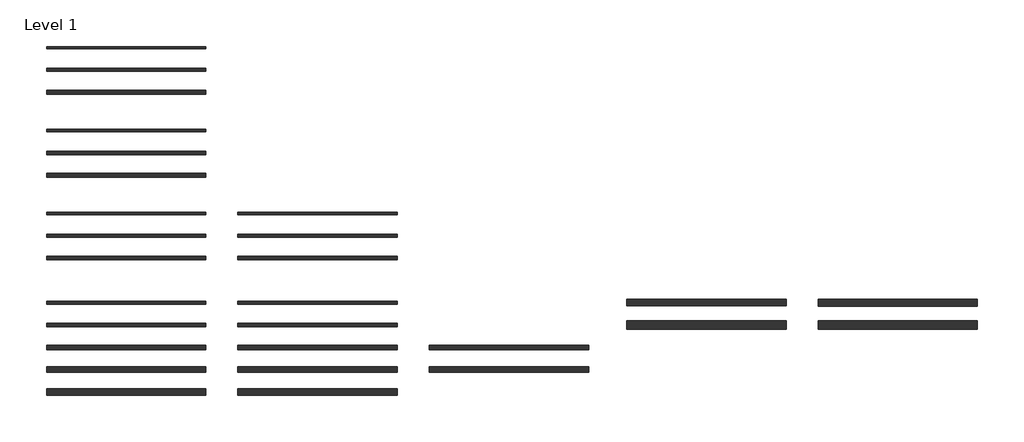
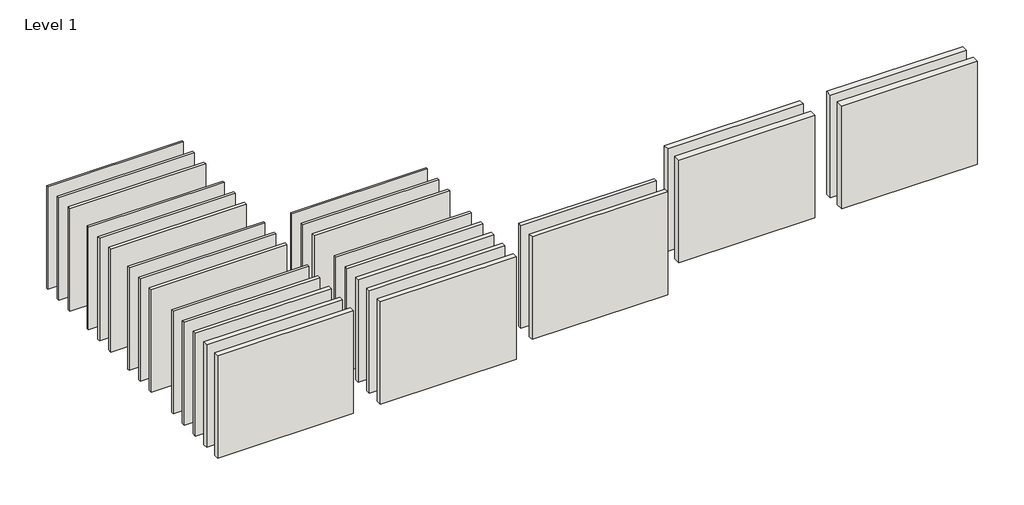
# One storey: 28 walls.
"""IFC4 building model written with IfcOpenShell, lengths in millimetres."""

from ifc_helpers import new_model, si_unit, origin, origin_with_axes, place, context, project, spatial, polyline, outline, extrude, element, save

model = new_model("IFC4")

# Units and contexts
model_context = context("Model", 3, world=origin())
ifc_project = project(units=[si_unit("LENGTHUNIT", "METRE", prefix="MILLI")], contexts=[model_context])

# Site, building, storey
site = spatial("IfcSite", under=ifc_project)
building = spatial("IfcBuilding", under=site)
storey = spatial("IfcBuildingStorey", under=building, Name="Level 1", Elevation=0.0)

# Walls
placement = place(None, origin())
element("IfcWall", 1, ObjectType="Knauf Danogips E T600 45/45 - /AA M0", at=placement, inside=storey, context=model_context, shape_type="SweptSolid", body=[
    extrude(outline(polyline([(-12781.2795625, 11679.3559755), (-17781.2795625, 11679.3559755), (-17781.2795625, 11749.3559755), (-12781.2795625, 11749.3559755), (-12781.2795625, 11679.3559755)])), origin_with_axes(), (0.0, 0.0, 1.0), 4000.0),
])
element("IfcWall", 2, ObjectType="Knauf Danogips E T600 70/70 - /AA M0", at=placement, inside=storey, context=model_context, shape_type="SweptSolid", body=[
    extrude(outline(polyline([(-12781.2795625, 10966.8559755), (-17781.2795625, 10966.8559755), (-17781.2795625, 11061.8559755), (-12781.2795625, 11061.8559755), (-12781.2795625, 10966.8559755)])), origin_with_axes(), (0.0, 0.0, 1.0), 4000.0),
])
element("IfcWall", 3, ObjectType="Knauf Danogips E T600 95/95 - /AA M0", at=placement, inside=storey, context=model_context, shape_type="SweptSolid", body=[
    extrude(outline(polyline([(-12781.2795625, 10254.3559755), (-17781.2795625, 10254.3559755), (-17781.2795625, 10374.3559755), (-12781.2795625, 10374.3559755), (-12781.2795625, 10254.3559755)])), origin_with_axes(), (0.0, 0.0, 1.0), 4000.0),
])
element("IfcWall", 4, ObjectType="Knauf Danogips E T600 45/45 - /AAA M0", at=placement, inside=storey, context=model_context, shape_type="SweptSolid", body=[
    extrude(outline(polyline([(-12781.2795625, 9073.1059755), (-17781.2795625, 9073.1059755), (-17781.2795625, 9155.6059755), (-12781.2795625, 9155.6059755), (-12781.2795625, 9073.1059755)])), origin_with_axes(), (0.0, 0.0, 1.0), 4000.0),
])
element("IfcWall", 5, ObjectType="Knauf Danogips E T600 70/70 - /AAA M0", at=placement, inside=storey, context=model_context, shape_type="SweptSolid", body=[
    extrude(outline(polyline([(-12781.2795625, 8360.6059755), (-17781.2795625, 8360.6059755), (-17781.2795625, 8468.1059755), (-12781.2795625, 8468.1059755), (-12781.2795625, 8360.6059755)])), origin_with_axes(), (0.0, 0.0, 1.0), 4000.0),
])
element("IfcWall", 6, ObjectType="Knauf Danogips E T600 95/95 - /AAA M0", at=placement, inside=storey, context=model_context, shape_type="SweptSolid", body=[
    extrude(outline(polyline([(-12781.2795625, 7648.1059755), (-17781.2795625, 7648.1059755), (-17781.2795625, 7780.6059755), (-12781.2795625, 7780.6059755), (-12781.2795625, 7648.1059755)])), origin_with_axes(), (0.0, 0.0, 1.0), 4000.0),
])
element("IfcWall", 7, ObjectType="Knauf Danogips E T600 45/45 A/A M0", at=placement, inside=storey, context=model_context, shape_type="SweptSolid", body=[
    extrude(outline(polyline([(-12781.2795625, 6479.3559755), (-17781.2795625, 6479.3559755), (-17781.2795625, 6549.3559755), (-12781.2795625, 6549.3559755), (-12781.2795625, 6479.3559755)])), origin_with_axes(), (0.0, 0.0, 1.0), 4000.0),
])
element("IfcWall", 8, ObjectType="Knauf Danogips E T600 70/70 A/A M0", at=placement, inside=storey, context=model_context, shape_type="SweptSolid", body=[
    extrude(outline(polyline([(-12781.2795625, 5766.8559755), (-17781.2795625, 5766.8559755), (-17781.2795625, 5861.8559755), (-12781.2795625, 5861.8559755), (-12781.2795625, 5766.8559755)])), origin_with_axes(), (0.0, 0.0, 1.0), 4000.0),
])
element("IfcWall", 9, ObjectType="Knauf Danogips E T600 95/95 A/A M0", at=placement, inside=storey, context=model_context, shape_type="SweptSolid", body=[
    extrude(outline(polyline([(-12781.2795625, 5054.3559755), (-17781.2795625, 5054.3559755), (-17781.2795625, 5174.3559755), (-12781.2795625, 5174.3559755), (-12781.2795625, 5054.3559755)])), origin_with_axes(), (0.0, 0.0, 1.0), 4000.0),
])
element("IfcWall", 10, ObjectType="Knauf Danogips E T600 45/45 A/A M45", at=placement, inside=storey, context=model_context, shape_type="SweptSolid", body=[
    extrude(outline(polyline([(-6781.2795625, 6479.3559755), (-11781.2795625, 6479.3559755), (-11781.2795625, 6549.3559755), (-6781.2795625, 6549.3559755), (-6781.2795625, 6479.3559755)])), origin_with_axes(), (0.0, 0.0, 1.0), 4000.0),
])
element("IfcWall", 11, ObjectType="Knauf Danogips E T600 70/70 A/A M45", at=placement, inside=storey, context=model_context, shape_type="SweptSolid", body=[
    extrude(outline(polyline([(-6781.2795625, 5766.8559755), (-11781.2795625, 5766.8559755), (-11781.2795625, 5861.8559755), (-6781.2795625, 5861.8559755), (-6781.2795625, 5766.8559755)])), origin_with_axes(), (0.0, 0.0, 1.0), 4000.0),
])
element("IfcWall", 12, ObjectType="Knauf Danogips E T600 95/95 A/A M45", at=placement, inside=storey, context=model_context, shape_type="SweptSolid", body=[
    extrude(outline(polyline([(-6781.2795625, 5054.3559755), (-11781.2795625, 5054.3559755), (-11781.2795625, 5174.3559755), (-6781.2795625, 5174.3559755), (-6781.2795625, 5054.3559755)])), origin_with_axes(), (0.0, 0.0, 1.0), 4000.0),
])
element("IfcWall", 13, ObjectType="Knauf Danogips E T600 45/45 AA/AA M0", at=placement, inside=storey, context=model_context, shape_type="SweptSolid", body=[
    extrude(outline(polyline([(-12781.2795625, 3666.8559755), (-17781.2795625, 3666.8559755), (-17781.2795625, 3761.8559755), (-12781.2795625, 3761.8559755), (-12781.2795625, 3666.8559755)])), origin_with_axes(), (0.0, 0.0, 1.0), 4000.0),
])
element("IfcWall", 14, ObjectType="Knauf Danogips E T600 70/70 AA/AA M0", at=placement, inside=storey, context=model_context, shape_type="SweptSolid", body=[
    extrude(outline(polyline([(-12781.2795625, 2954.3559755), (-17781.2795625, 2954.3559755), (-17781.2795625, 3074.3559755), (-12781.2795625, 3074.3559755), (-12781.2795625, 2954.3559755)])), origin_with_axes(), (0.0, 0.0, 1.0), 4000.0),
])
element("IfcWall", 15, ObjectType="Knauf Danogips E T600 95/95 AA/AA M0", at=placement, inside=storey, context=model_context, shape_type="SweptSolid", body=[
    extrude(outline(polyline([(-12781.2795625, 2241.8559755), (-17781.2795625, 2241.8559755), (-17781.2795625, 2386.8559755), (-12781.2795625, 2386.8559755), (-12781.2795625, 2241.8559755)])), origin_with_axes(), (0.0, 0.0, 1.0), 4000.0),
])
element("IfcWall", 16, ObjectType="Knauf Danogips E T600 120/120 AA/AA M0", at=placement, inside=storey, context=model_context, shape_type="SweptSolid", body=[
    extrude(outline(polyline([(-12781.2795625, 1529.3559755), (-17781.2795625, 1529.3559755), (-17781.2795625, 1699.3559755), (-12781.2795625, 1699.3559755), (-12781.2795625, 1529.3559755)])), origin_with_axes(), (0.0, 0.0, 1.0), 4000.0),
])
element("IfcWall", 17, ObjectType="Knauf Danogips E T600 145/145 AA/AA M0", at=placement, inside=storey, context=model_context, shape_type="SweptSolid", body=[
    extrude(outline(polyline([(-12781.2795625, 816.8559755), (-17781.2795625, 816.8559755), (-17781.2795625, 1011.8559755), (-12781.2795625, 1011.8559755), (-12781.2795625, 816.8559755)])), origin_with_axes(), (0.0, 0.0, 1.0), 4000.0),
])
element("IfcWall", 18, ObjectType="Knauf Danogips E T600 45/45 AA/AA M45", at=placement, inside=storey, context=model_context, shape_type="SweptSolid", body=[
    extrude(outline(polyline([(-6781.2795625, 3666.8559755), (-11781.2795625, 3666.8559755), (-11781.2795625, 3761.8559755), (-6781.2795625, 3761.8559755), (-6781.2795625, 3666.8559755)])), origin_with_axes(), (0.0, 0.0, 1.0), 4000.0),
])
element("IfcWall", 19, ObjectType="Knauf Danogips E T600 70/70 AA/AA M45", at=placement, inside=storey, context=model_context, shape_type="SweptSolid", body=[
    extrude(outline(polyline([(-6781.2795625, 2954.3559755), (-11781.2795625, 2954.3559755), (-11781.2795625, 3074.3559755), (-6781.2795625, 3074.3559755), (-6781.2795625, 2954.3559755)])), origin_with_axes(), (0.0, 0.0, 1.0), 4000.0),
])
element("IfcWall", 20, ObjectType="Knauf Danogips E T600 95/95 AA/AA M45", at=placement, inside=storey, context=model_context, shape_type="SweptSolid", body=[
    extrude(outline(polyline([(-6781.2795625, 2241.8559755), (-11781.2795625, 2241.8559755), (-11781.2795625, 2386.8559755), (-6781.2795625, 2386.8559755), (-6781.2795625, 2241.8559755)])), origin_with_axes(), (0.0, 0.0, 1.0), 4000.0),
])
element("IfcWall", 21, ObjectType="Knauf Danogips E T600 120/120 AA/AA M45", at=placement, inside=storey, context=model_context, shape_type="SweptSolid", body=[
    extrude(outline(polyline([(-6781.2795625, 1529.3559755), (-11781.2795625, 1529.3559755), (-11781.2795625, 1699.3559755), (-6781.2795625, 1699.3559755), (-6781.2795625, 1529.3559755)])), origin_with_axes(), (0.0, 0.0, 1.0), 4000.0),
])
element("IfcWall", 22, ObjectType="Knauf Danogips E T600 145/145 AA/AA M45", at=placement, inside=storey, context=model_context, shape_type="SweptSolid", body=[
    extrude(outline(polyline([(-6781.2795625, 816.8559755), (-11781.2795625, 816.8559755), (-11781.2795625, 1011.8559755), (-6781.2795625, 1011.8559755), (-6781.2795625, 816.8559755)])), origin_with_axes(), (0.0, 0.0, 1.0), 4000.0),
])
element("IfcWall", 23, ObjectType="Knauf Danogips Z T600 95/70 AA/AA M45", at=placement, inside=storey, context=model_context, shape_type="SweptSolid", body=[
    extrude(outline(polyline([(-781.2795625, 2241.8559755), (-5781.2795625, 2241.8559755), (-5781.2795625, 2386.8559755), (-781.2795625, 2386.8559755), (-781.2795625, 2241.8559755)])), origin_with_axes(), (0.0, 0.0, 1.0), 4000.0),
])
element("IfcWall", 24, ObjectType="Knauf Danogips Z T600 120/70 AA/AA M45", at=placement, inside=storey, context=model_context, shape_type="SweptSolid", body=[
    extrude(outline(polyline([(-781.2795625, 1529.3559755), (-5781.2795625, 1529.3559755), (-5781.2795625, 1699.3559755), (-781.2795625, 1699.3559755), (-781.2795625, 1529.3559755)])), origin_with_axes(), (0.0, 0.0, 1.0), 4000.0),
])
element("IfcWall", 25, ObjectType="Knauf Danogips D T600 70/70 AA/AA M140", at=placement, inside=storey, context=model_context, shape_type="SweptSolid", body=[
    extrude(outline(polyline([(5418.7204375, 3611.8559755), (418.7204375, 3611.8559755), (418.7204375, 3816.8559755), (5418.7204375, 3816.8559755), (5418.7204375, 3611.8559755)])), origin_with_axes(), (0.0, 0.0, 1.0), 4000.0),
])
element("IfcWall", 26, ObjectType="Knauf Danogips D T600 95/95 AA/AA M190", at=placement, inside=storey, context=model_context, shape_type="SweptSolid", body=[
    extrude(outline(polyline([(5418.7204375, 2886.8559755), (418.7204375, 2886.8559755), (418.7204375, 3141.8559755), (5418.7204375, 3141.8559755), (5418.7204375, 2886.8559755)])), origin_with_axes(), (0.0, 0.0, 1.0), 4000.0),
])
element("IfcWall", 27, ObjectType="Knauf Danogips D T600 70/70 AAA/AAA M140", at=placement, inside=storey, context=model_context, shape_type="SweptSolid", body=[
    extrude(outline(polyline([(11418.7204375, 3599.3559755), (6418.7204375, 3599.3559755), (6418.7204375, 3829.3559755), (11418.7204375, 3829.3559755), (11418.7204375, 3599.3559755)])), origin_with_axes(), (0.0, 0.0, 1.0), 4000.0),
])
element("IfcWall", 28, ObjectType="Knauf Danogips D T600 95/95 AAA/AAA M190", at=placement, inside=storey, context=model_context, shape_type="SweptSolid", body=[
    extrude(outline(polyline([(11418.7204375, 2874.3559755), (6418.7204375, 2874.3559755), (6418.7204375, 3154.3559755), (11418.7204375, 3154.3559755), (11418.7204375, 2874.3559755)])), origin_with_axes(), (0.0, 0.0, 1.0), 4000.0),
])

save(model, "model.ifc")
